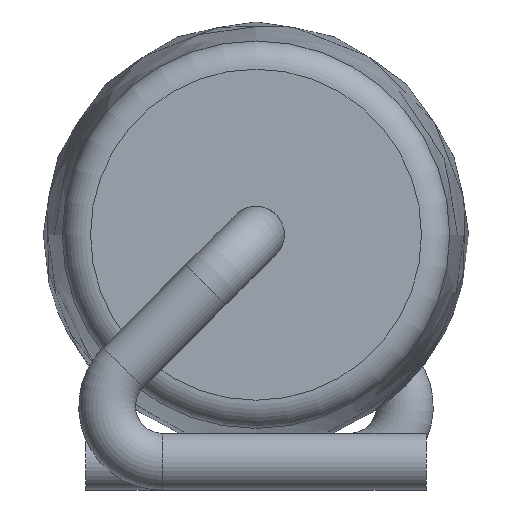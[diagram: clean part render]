
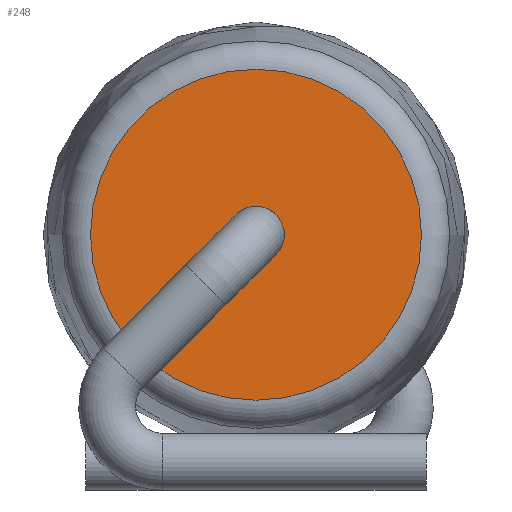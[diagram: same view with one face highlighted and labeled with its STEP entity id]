
A CAD part, left-side view. The second image highlights one B-rep face of the part: STEP entity #248.
In plain terms, the highlighted planar face has unit normal (-1, 0, 0).
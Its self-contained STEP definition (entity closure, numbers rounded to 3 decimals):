
#32=FACE_BOUND('',#59,.T.);
#34=PLANE('',#292);
#41=FACE_OUTER_BOUND('',#58,.T.);
#58=EDGE_LOOP('',(#172));
#59=EDGE_LOOP('',(#173));
#75=CIRCLE('',#287,2.334);
#80=CIRCLE('',#293,0.4);
#105=VERTEX_POINT('',#434);
#108=VERTEX_POINT('',#470);
#128=EDGE_CURVE('',#105,#105,#75,.T.);
#133=EDGE_CURVE('',#108,#108,#80,.T.);
#172=ORIENTED_EDGE('',*,*,#128,.F.);
#173=ORIENTED_EDGE('',*,*,#133,.F.);
#248=ADVANCED_FACE('',(#41,#32),#34,.T.);
#287=AXIS2_PLACEMENT_3D('',#435,#336,#337);
#292=AXIS2_PLACEMENT_3D('',#469,#346,#347);
#293=AXIS2_PLACEMENT_3D('',#471,#348,#349);
#336=DIRECTION('center_axis',(1.,0.,0.));
#337=DIRECTION('ref_axis',(0.,0.,-1.));
#346=DIRECTION('center_axis',(-1.,0.,0.));
#347=DIRECTION('ref_axis',(0.,0.,1.));
#348=DIRECTION('center_axis',(-1.,0.,0.));
#349=DIRECTION('ref_axis',(0.,-1.,0.));
#434=CARTESIAN_POINT('',(-6.5,0.,-2.334));
#435=CARTESIAN_POINT('Origin',(-6.5,0.,0.));
#469=CARTESIAN_POINT('Origin',(-6.5,0.,0.4));
#470=CARTESIAN_POINT('',(-6.5,0.4,0.));
#471=CARTESIAN_POINT('Origin',(-6.5,0.,0.));
